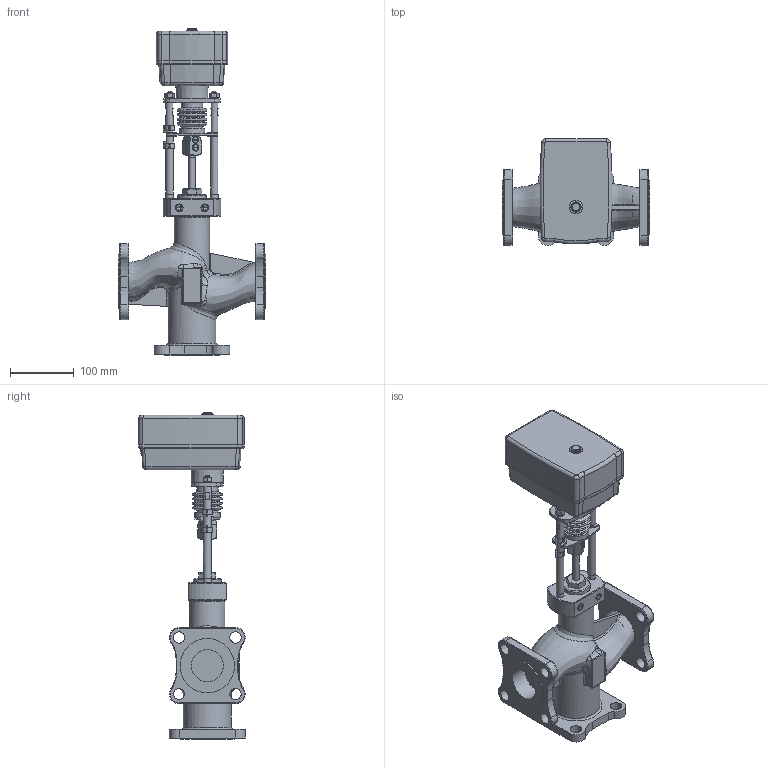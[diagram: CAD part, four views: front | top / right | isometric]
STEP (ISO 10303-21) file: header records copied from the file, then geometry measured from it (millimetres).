
FILE_DESCRIPTION(/* description */ ('Unknown'),/* implementation_level */ '2;1');
FILE_NAME(/* name */ 'TRV-3K-50-40-101',/* time_stamp */ '2023-01-16T11:52:31+03:00',/* author */ ('Unknown'),/* organization */ ('Unknown'),/* preprocessor_version */ 'ST-DEVELOPER v16.7',/* originating_system */ 'DEX',/* authorisation */ $);
FILE_SCHEMA (('AUTOMOTIVE_DESIGN {1 0 10303 214 3 1 1}'));
Length unit declared in the file: millimetre
Products named in the file (3): Êëàïàí DN50-3õ TSL-2200; Äó50-3õ; Ñáîðêà ¹5
Assembly tree (2 placements, depth 2):
  Êëàïàí DN50-3õ TSL-2200
    Äó50-3õ
    Ñáîðêà ¹5
Bounding box: 230 x 166.14 x 510.4 mm (x, y, z)
Volume: 3381529.8 mm3; surface area: 330780.9 mm2
Topology: 3 solids, 5 shells, 712 faces, 1743 edges, 1080 vertices
Faces by surface type: plane 323, cylinder 181, torus 71, cone 68, bspline 57, sphere 12
Full cylindrical faces by diameter (mm): 4.134 x2, 5 x3, 5.2 x5, 6.5 x1, 6.647 x2, 8 x4, 10 x4, 12 x2, 12.002 x4, 12.2 x2, 13.8 x2, 15 x1, 15.6 x1, 18 x12, 20 x1, 25 x1, 33.4 x1, 33.972 x1, 40 x1, 44 x2, 44.5 x1, 50 x3, 55 x1, 75 x1, 85 x3
Entity records: 25700 total; most frequent: CARTESIAN_POINT 6753, DIRECTION 3286, ORIENTED_EDGE 3130, EDGE_CURVE 1565, AXIS2_PLACEMENT_3D 1315, VERTEX_POINT 1024, FACE_BOUND 919, EDGE_LOOP 917
